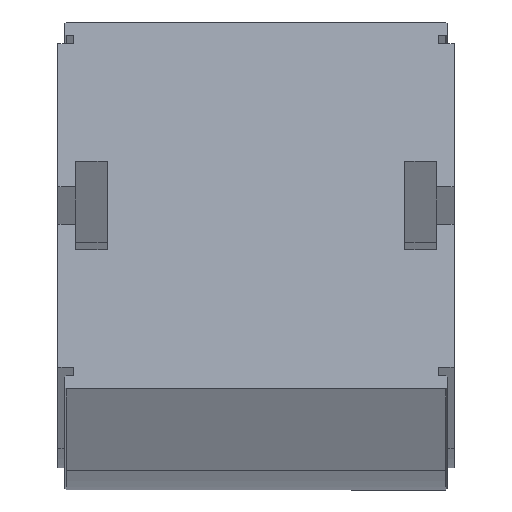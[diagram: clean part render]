
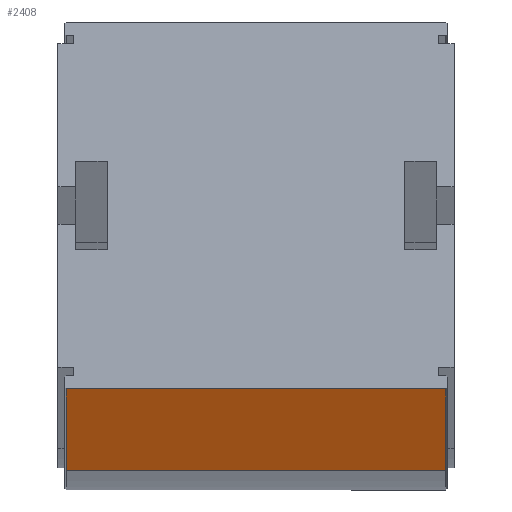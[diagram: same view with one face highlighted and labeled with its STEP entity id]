
A CAD part, top view. The second image highlights one B-rep face of the part: STEP entity #2408.
In plain terms, the highlighted planar face has unit normal (0, -0.993, 0.122).
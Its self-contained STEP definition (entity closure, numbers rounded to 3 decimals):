
#17 = CARTESIAN_POINT ( 'NONE',  ( -43.15, -37.96, 216.053 ) ) ;
#21 = CARTESIAN_POINT ( 'NONE',  ( 43.15, -19.68, 364.935 ) ) ;
#43 = CARTESIAN_POINT ( 'NONE',  ( -43.15, -19.68, 364.935 ) ) ;
#82 = VERTEX_POINT ( 'NONE', #21 ) ;
#89 = VERTEX_POINT ( 'NONE', #43 ) ;
#96 = VERTEX_POINT ( 'NONE', #17 ) ;
#120 = VERTEX_POINT ( 'NONE', #258 ) ;
#230 = EDGE_LOOP ( 'NONE', ( #1610, #1609, #1608, #1607 ) ) ;
#258 = CARTESIAN_POINT ( 'NONE',  ( 43.15, -37.96, 216.053 ) ) ;
#288 = FACE_OUTER_BOUND ( 'NONE', #230, .T. ) ;
#455 = EDGE_CURVE ( 'NONE', #96, #89, #2919, .T. ) ;
#475 = EDGE_CURVE ( 'NONE', #120, #96, #2880, .T. ) ;
#476 = EDGE_CURVE ( 'NONE', #120, #82, #2872, .T. ) ;
#477 = EDGE_CURVE ( 'NONE', #82, #89, #2870, .T. ) ;
#708 = CARTESIAN_POINT ( 'NONE',  ( -43.15, -37.96, 216.053 ) ) ;
#716 = DIRECTION ( 'NONE',  ( 0., 0.122, 0.993 ) ) ;
#744 = CARTESIAN_POINT ( 'NONE',  ( -43.15, -37.96, 216.053 ) ) ;
#747 = CARTESIAN_POINT ( 'NONE',  ( 43.15, -37.96, 216.053 ) ) ;
#754 = CARTESIAN_POINT ( 'NONE',  ( -43.15, -19.68, 364.935 ) ) ;
#756 = DIRECTION ( 'NONE',  ( -1., 0., 0. ) ) ;
#758 = DIRECTION ( 'NONE',  ( 0., 0.122, 0.993 ) ) ;
#760 = DIRECTION ( 'NONE',  ( -1., 0., 0. ) ) ;
#1607 = ORIENTED_EDGE ( 'NONE', *, *, #455, .F. ) ;
#1608 = ORIENTED_EDGE ( 'NONE', *, *, #477, .T. ) ;
#1609 = ORIENTED_EDGE ( 'NONE', *, *, #476, .T. ) ;
#1610 = ORIENTED_EDGE ( 'NONE', *, *, #475, .F. ) ;
#2225 = PLANE ( 'NONE',  #3068 ) ;
#2226 = CARTESIAN_POINT ( 'NONE',  ( -43.15, -37.96, 216.053 ) ) ;
#2231 = DIRECTION ( 'NONE',  ( 0., 0.993, -0.122 ) ) ;
#2232 = DIRECTION ( 'NONE',  ( 0., 0.122, 0.993 ) ) ;
#2408 = ADVANCED_FACE ( 'NONE', ( #288 ), #2225, .F. ) ;
#2865 = VECTOR ( 'NONE', #760, 1000. ) ;
#2867 = VECTOR ( 'NONE', #758, 1000. ) ;
#2869 = VECTOR ( 'NONE', #756, 1000. ) ;
#2870 = LINE ( 'NONE', #754, #2865 ) ;
#2872 = LINE ( 'NONE', #747, #2867 ) ;
#2880 = LINE ( 'NONE', #744, #2869 ) ;
#2912 = VECTOR ( 'NONE', #716, 1000. ) ;
#2919 = LINE ( 'NONE', #708, #2912 ) ;
#3068 = AXIS2_PLACEMENT_3D ( 'NONE', #2226, #2231, #2232 ) ;
